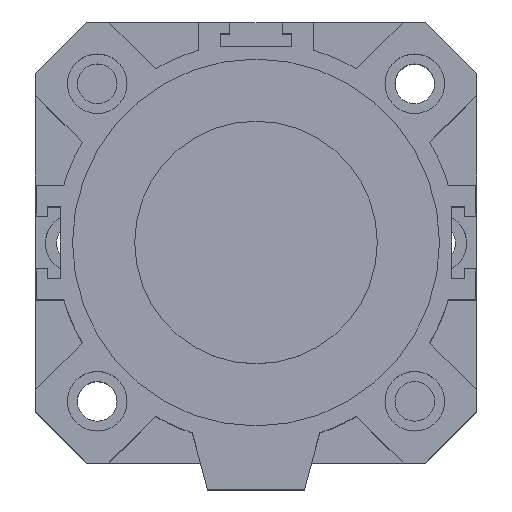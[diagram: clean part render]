
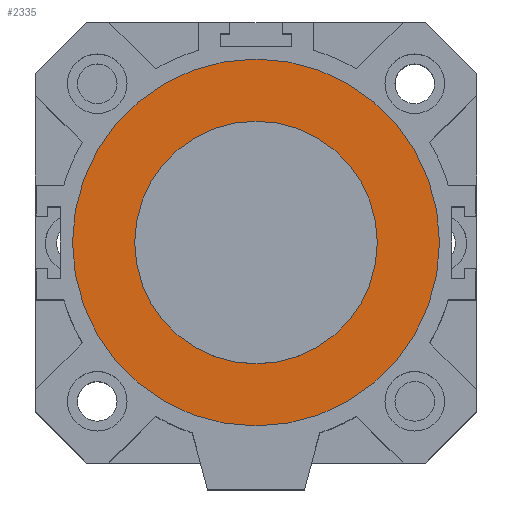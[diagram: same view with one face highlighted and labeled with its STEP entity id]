
A CAD part, top view. The second image highlights one B-rep face of the part: STEP entity #2335.
In plain terms, the highlighted planar face has unit normal (0, 0, 1).
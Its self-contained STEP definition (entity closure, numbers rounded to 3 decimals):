
#449=PLANE('',#2486);
#547=FACE_BOUND('',#766,.T.);
#548=FACE_BOUND('',#767,.T.);
#766=EDGE_LOOP('',(#1592));
#767=EDGE_LOOP('',(#1593));
#977=CIRCLE('',#2481,27.5);
#979=CIRCLE('',#2484,41.6);
#1065=VERTEX_POINT('',#3388);
#1067=VERTEX_POINT('',#3393);
#1287=EDGE_CURVE('',#1065,#1065,#977,.T.);
#1289=EDGE_CURVE('',#1067,#1067,#979,.T.);
#1592=ORIENTED_EDGE('',*,*,#1287,.F.);
#1593=ORIENTED_EDGE('',*,*,#1289,.F.);
#2335=ADVANCED_FACE('',(#547,#548),#449,.T.);
#2481=AXIS2_PLACEMENT_3D('',#3389,#2720,#2721);
#2484=AXIS2_PLACEMENT_3D('',#3394,#2726,#2727);
#2486=AXIS2_PLACEMENT_3D('',#3397,#2730,#2731);
#2720=DIRECTION('center_axis',(0.,0.,1.));
#2721=DIRECTION('ref_axis',(-1.,0.,0.));
#2726=DIRECTION('center_axis',(0.,0.,-1.));
#2727=DIRECTION('ref_axis',(-1.,0.,0.));
#2730=DIRECTION('center_axis',(0.,0.,1.));
#2731=DIRECTION('ref_axis',(1.,0.,0.));
#3388=CARTESIAN_POINT('',(27.5,0.,32.));
#3389=CARTESIAN_POINT('Origin',(0.,0.,32.));
#3393=CARTESIAN_POINT('',(41.6,0.,32.));
#3394=CARTESIAN_POINT('Origin',(0.,0.,32.));
#3397=CARTESIAN_POINT('Origin',(0.,0.,
32.));
